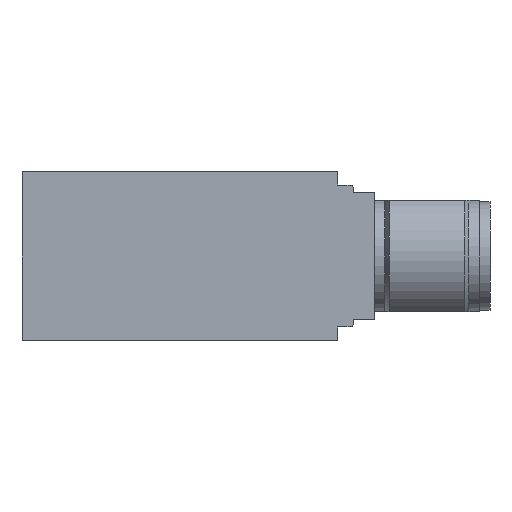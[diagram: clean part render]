
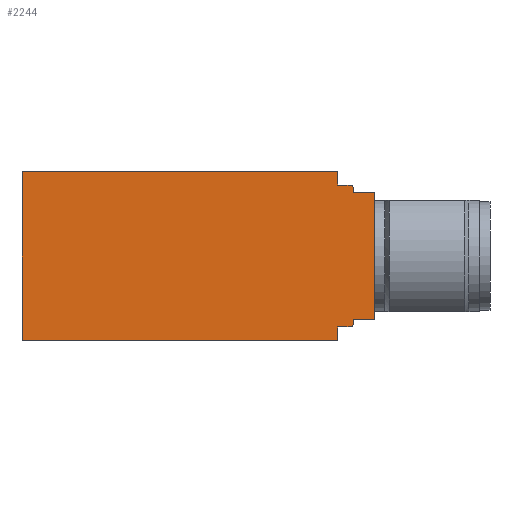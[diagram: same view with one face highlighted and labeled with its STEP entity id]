
A CAD part, front view. The second image highlights one B-rep face of the part: STEP entity #2244.
In plain terms, the highlighted planar face has unit normal (0, -1, 0) as drawn and (0, 0, -1) by its records, which use the part's own axes.
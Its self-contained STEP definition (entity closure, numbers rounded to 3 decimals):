
#73=LINE('',#3379,#203);
#81=LINE('',#3394,#211);
#113=LINE('',#3497,#243);
#129=LINE('',#3542,#259);
#145=LINE('',#3575,#275);
#146=LINE('',#3578,#276);
#147=LINE('',#3582,#277);
#148=LINE('',#3584,#278);
#149=LINE('',#3586,#279);
#150=LINE('',#3588,#280);
#151=LINE('',#3590,#281);
#152=LINE('',#3593,#282);
#203=VECTOR('',#2699,1.25);
#211=VECTOR('',#2707,1.25);
#243=VECTOR('',#2811,30.);
#259=VECTOR('',#2855,16.);
#275=VECTOR('',#2893,30.);
#276=VECTOR('',#2896,1.2);
#277=VECTOR('',#2899,0.45);
#278=VECTOR('',#2900,2.);
#279=VECTOR('',#2901,12.);
#280=VECTOR('',#2902,2.);
#281=VECTOR('',#2903,0.45);
#282=VECTOR('',#2906,1.2);
#419=PLANE('',#2443);
#547=FACE_OUTER_BOUND('',#709,.T.);
#709=EDGE_LOOP('',(#1710,#1711,#1712,#1713,#1714,#1715,#1716,#1717,#1718,
#1719,#1720,#1721,#1722,#1723));
#865=CIRCLE('',#2444,0.3);
#866=CIRCLE('',#2445,0.3);
#963=VERTEX_POINT('',#3371);
#966=VERTEX_POINT('',#3376);
#967=VERTEX_POINT('',#3378);
#974=VERTEX_POINT('',#3392);
#1009=VERTEX_POINT('',#3495);
#1024=VERTEX_POINT('',#3540);
#1031=VERTEX_POINT('',#3577);
#1032=VERTEX_POINT('',#3579);
#1033=VERTEX_POINT('',#3581);
#1034=VERTEX_POINT('',#3583);
#1035=VERTEX_POINT('',#3585);
#1036=VERTEX_POINT('',#3587);
#1037=VERTEX_POINT('',#3589);
#1038=VERTEX_POINT('',#3591);
#1180=EDGE_CURVE('',#967,#966,#73,.T.);
#1188=EDGE_CURVE('',#963,#974,#81,.T.);
#1237=EDGE_CURVE('',#974,#1009,#113,.T.);
#1259=EDGE_CURVE('',#1024,#1009,#129,.T.);
#1276=EDGE_CURVE('',#1024,#967,#145,.T.);
#1277=EDGE_CURVE('',#966,#1031,#146,.T.);
#1278=EDGE_CURVE('',#1031,#1032,#865,.T.);
#1279=EDGE_CURVE('',#1032,#1033,#147,.T.);
#1280=EDGE_CURVE('',#1033,#1034,#148,.T.);
#1281=EDGE_CURVE('',#1035,#1034,#149,.T.);
#1282=EDGE_CURVE('',#1036,#1035,#150,.T.);
#1283=EDGE_CURVE('',#1037,#1036,#151,.T.);
#1284=EDGE_CURVE('',#1038,#1037,#866,.T.);
#1285=EDGE_CURVE('',#963,#1038,#152,.T.);
#1710=ORIENTED_EDGE('',*,*,#1277,.T.);
#1711=ORIENTED_EDGE('',*,*,#1278,.T.);
#1712=ORIENTED_EDGE('',*,*,#1279,.T.);
#1713=ORIENTED_EDGE('',*,*,#1280,.T.);
#1714=ORIENTED_EDGE('',*,*,#1281,.F.);
#1715=ORIENTED_EDGE('',*,*,#1282,.F.);
#1716=ORIENTED_EDGE('',*,*,#1283,.F.);
#1717=ORIENTED_EDGE('',*,*,#1284,.F.);
#1718=ORIENTED_EDGE('',*,*,#1285,.F.);
#1719=ORIENTED_EDGE('',*,*,#1188,.T.);
#1720=ORIENTED_EDGE('',*,*,#1237,.T.);
#1721=ORIENTED_EDGE('',*,*,#1259,.F.);
#1722=ORIENTED_EDGE('',*,*,#1276,.T.);
#1723=ORIENTED_EDGE('',*,*,#1180,.T.);
#2244=ADVANCED_FACE('',(#547),#419,.F.);
#2443=AXIS2_PLACEMENT_3D('',#3576,#2894,#2895);
#2444=AXIS2_PLACEMENT_3D('',#3580,#2897,#2898);
#2445=AXIS2_PLACEMENT_3D('',#3592,#2904,#2905);
#2699=DIRECTION('',(0.,-1.,0.));
#2707=DIRECTION('',(0.,-1.,0.));
#2811=DIRECTION('',(-1.,0.,0.));
#2855=DIRECTION('',(0.,-1.,0.));
#2893=DIRECTION('',(1.,0.,0.));
#2894=DIRECTION('center_axis',(0.,0.,1.));
#2895=DIRECTION('ref_axis',(1.,0.,0.));
#2896=DIRECTION('',(1.,0.,0.));
#2897=DIRECTION('center_axis',(0.,0.,-1.));
#2898=DIRECTION('ref_axis',(0.707,0.707,0.));
#2899=DIRECTION('',(0.,-1.,0.));
#2900=DIRECTION('',(1.,0.,0.));
#2901=DIRECTION('',(0.,1.,0.));
#2902=DIRECTION('',(1.,0.,0.));
#2903=DIRECTION('',(0.,1.,0.));
#2904=DIRECTION('center_axis',(0.,0.,1.));
#2905=DIRECTION('ref_axis',(0.707,-0.707,0.));
#2906=DIRECTION('',(1.,0.,0.));
#3371=CARTESIAN_POINT('',(15.,-14.75,-43.));
#3376=CARTESIAN_POINT('',(15.,-1.25,-43.));
#3378=CARTESIAN_POINT('',(15.,0.,-43.));
#3379=CARTESIAN_POINT('',(15.,0.,-43.));
#3392=CARTESIAN_POINT('',(15.,-16.,-43.));
#3394=CARTESIAN_POINT('',(15.,-14.75,-43.));
#3495=CARTESIAN_POINT('',(-15.,-16.,-43.));
#3497=CARTESIAN_POINT('',(15.,-16.,-43.));
#3540=CARTESIAN_POINT('',(-15.,0.,-43.));
#3542=CARTESIAN_POINT('',(-15.,0.,-43.));
#3575=CARTESIAN_POINT('',(-15.,0.,-43.));
#3576=CARTESIAN_POINT('Origin',(1.75,-16.,-43.));
#3577=CARTESIAN_POINT('',(16.2,-1.25,-43.));
#3578=CARTESIAN_POINT('',(15.,-1.25,-43.));
#3579=CARTESIAN_POINT('',(16.5,-1.55,-43.));
#3580=CARTESIAN_POINT('Origin',(16.2,-1.55,-43.));
#3581=CARTESIAN_POINT('',(16.5,-2.,-43.));
#3582=CARTESIAN_POINT('',(16.5,-1.55,-43.));
#3583=CARTESIAN_POINT('',(18.5,-2.,-43.));
#3584=CARTESIAN_POINT('',(16.5,-2.,-43.));
#3585=CARTESIAN_POINT('',(18.5,-14.,-43.));
#3586=CARTESIAN_POINT('',(18.5,-14.,-43.));
#3587=CARTESIAN_POINT('',(16.5,-14.,-43.));
#3588=CARTESIAN_POINT('',(16.5,-14.,-43.));
#3589=CARTESIAN_POINT('',(16.5,-14.45,-43.));
#3590=CARTESIAN_POINT('',(16.5,-14.45,-43.));
#3591=CARTESIAN_POINT('',(16.2,-14.75,-43.));
#3592=CARTESIAN_POINT('Origin',(16.2,-14.45,-43.));
#3593=CARTESIAN_POINT('',(15.,-14.75,-43.));
